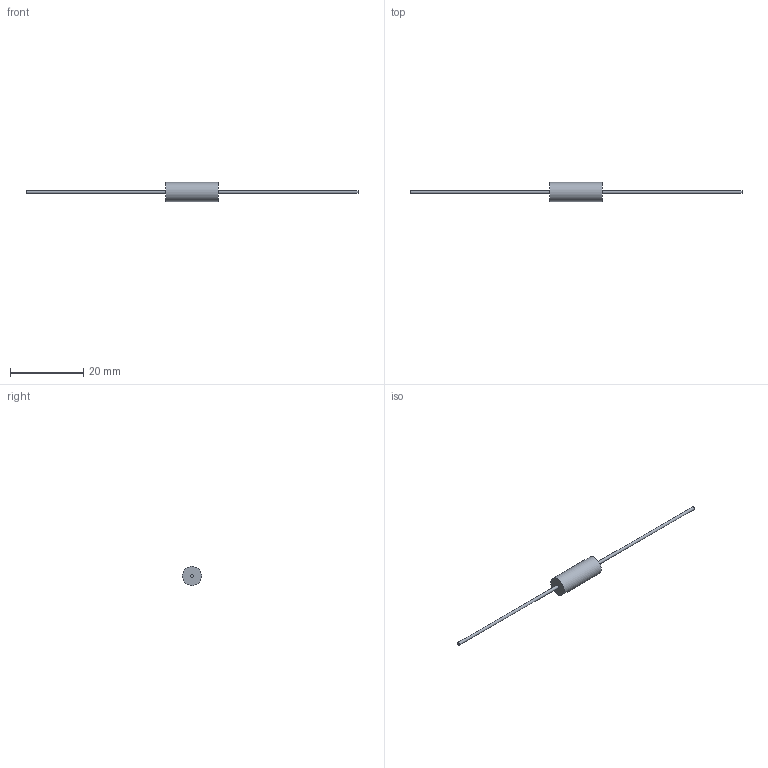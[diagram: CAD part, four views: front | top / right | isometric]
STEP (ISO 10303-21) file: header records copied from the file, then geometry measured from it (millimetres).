
FILE_DESCRIPTION(/* description */ (''),/* implementation_level */ '2;1');
FILE_NAME(/* name */ 'C:\Users\mulla\Documents\SEI Models\Inventor Files\WW_MWW_NWW_WWS\3D\MWW3_NMWW3_stp.stp',/* time_stamp */ '2019-07-10T21:31:31-04:00',/* author */ ('mulla'),/* organization */ (''),/* preprocessor_version */ 'ST-DEVELOPER v16.1',/* originating_system */ 'Autodesk Inventor 2016',/* authorisation */ '');
FILE_SCHEMA (('AUTOMOTIVE_DESIGN { 1 0 10303 214 3 1 1 }'));
Length unit declared in the file: millimetre
Products named in the file (1): MWW3_NMWW3
Bounding box: 90.42 x 5.21 x 5.21 mm (x, y, z)
Volume: 342.4 mm3; surface area: 471.4 mm2
Topology: 3 solids, 3 shells, 9 faces, 9 edges, 6 vertices
Faces by surface type: plane 6, cylinder 3
Full cylindrical faces by diameter (mm): 0.81 x2, 5.21 x1
Entity records: 199 total; most frequent: DIRECTION 32, CARTESIAN_POINT 22, AXIS2_PLACEMENT_3D 16, EDGE_LOOP 12, ORIENTED_EDGE 12, STYLED_ITEM 12, FACE_OUTER_BOUND 9, ADVANCED_FACE 9
